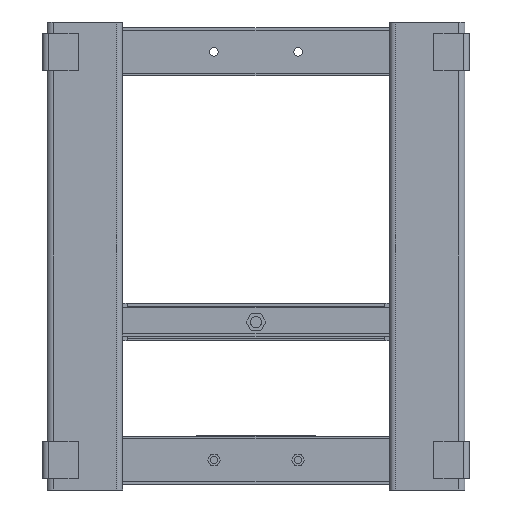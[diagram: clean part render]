
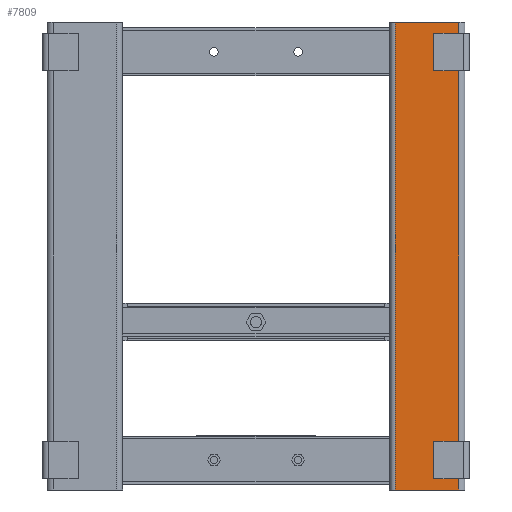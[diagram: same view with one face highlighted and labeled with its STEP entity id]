
A CAD part, front view. The second image highlights one B-rep face of the part: STEP entity #7809.
In plain terms, the highlighted planar face has unit normal (0, -1, 0).
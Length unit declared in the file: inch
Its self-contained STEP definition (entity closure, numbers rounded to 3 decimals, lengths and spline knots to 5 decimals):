
#717=FACE_OUTER_BOUND('',#1163,.T.);
#1163=EDGE_LOOP('',(#6401,#6402,#6403,#6404,#6405,#6406,#6407,#6408,#6409,
#6410,#6411,#6412));
#1909=LINE('',#12211,#2755);
#1915=LINE('',#12226,#2761);
#1924=LINE('',#12245,#2770);
#1945=LINE('',#12295,#2791);
#1950=LINE('',#12309,#2796);
#1960=LINE('',#12329,#2806);
#1964=LINE('',#12338,#2810);
#1965=LINE('',#12340,#2811);
#1966=LINE('',#12342,#2812);
#1967=LINE('',#12344,#2813);
#1968=LINE('',#12345,#2814);
#1969=LINE('',#12346,#2815);
#2755=VECTOR('',#10017,0.3937);
#2761=VECTOR('',#10033,0.3937);
#2770=VECTOR('',#10054,0.3937);
#2791=VECTOR('',#10097,0.3937);
#2796=VECTOR('',#10110,0.3937);
#2806=VECTOR('',#10132,0.3937);
#2810=VECTOR('',#10140,0.3937);
#2811=VECTOR('',#10141,0.3937);
#2812=VECTOR('',#10142,0.3937);
#2813=VECTOR('',#10143,0.3937);
#2814=VECTOR('',#10144,0.3937);
#2815=VECTOR('',#10145,0.3937);
#3484=VERTEX_POINT('',#12208);
#3485=VERTEX_POINT('',#12210);
#3488=VERTEX_POINT('',#12221);
#3489=VERTEX_POINT('',#12225);
#3507=VERTEX_POINT('',#12284);
#3508=VERTEX_POINT('',#12285);
#3511=VERTEX_POINT('',#12294);
#3516=VERTEX_POINT('',#12308);
#3523=VERTEX_POINT('',#12337);
#3524=VERTEX_POINT('',#12339);
#3525=VERTEX_POINT('',#12341);
#3526=VERTEX_POINT('',#12343);
#4455=EDGE_CURVE('',#3485,#3484,#1909,.T.);
#4463=EDGE_CURVE('',#3484,#3489,#1915,.T.);
#4473=EDGE_CURVE('',#3489,#3488,#1924,.T.);
#4498=EDGE_CURVE('',#3511,#3508,#1945,.T.);
#4505=EDGE_CURVE('',#3516,#3511,#1950,.T.);
#4516=EDGE_CURVE('',#3507,#3516,#1960,.T.);
#4520=EDGE_CURVE('',#3488,#3523,#1964,.T.);
#4521=EDGE_CURVE('',#3524,#3523,#1965,.T.);
#4522=EDGE_CURVE('',#3525,#3524,#1966,.T.);
#4523=EDGE_CURVE('',#3525,#3526,#1967,.T.);
#4524=EDGE_CURVE('',#3526,#3507,#1968,.T.);
#4525=EDGE_CURVE('',#3508,#3485,#1969,.T.);
#6401=ORIENTED_EDGE('',*,*,#4473,.T.);
#6402=ORIENTED_EDGE('',*,*,#4520,.T.);
#6403=ORIENTED_EDGE('',*,*,#4521,.F.);
#6404=ORIENTED_EDGE('',*,*,#4522,.F.);
#6405=ORIENTED_EDGE('',*,*,#4523,.T.);
#6406=ORIENTED_EDGE('',*,*,#4524,.T.);
#6407=ORIENTED_EDGE('',*,*,#4516,.T.);
#6408=ORIENTED_EDGE('',*,*,#4505,.T.);
#6409=ORIENTED_EDGE('',*,*,#4498,.T.);
#6410=ORIENTED_EDGE('',*,*,#4525,.T.);
#6411=ORIENTED_EDGE('',*,*,#4455,.T.);
#6412=ORIENTED_EDGE('',*,*,#4463,.T.);
#7094=PLANE('',#8363);
#7809=ADVANCED_FACE('',(#717),#7094,.T.);
#8363=AXIS2_PLACEMENT_3D('',#12336,#10138,#10139);
#10017=DIRECTION('',(-1.,0.,0.));
#10033=DIRECTION('',(0.,0.,1.));
#10054=DIRECTION('',(1.,0.,0.));
#10097=DIRECTION('',(1.,0.,0.));
#10110=DIRECTION('',(0.,0.,1.));
#10132=DIRECTION('',(-1.,0.,0.));
#10138=DIRECTION('center_axis',(0.,-1.,0.));
#10139=DIRECTION('ref_axis',(1.,0.,0.));
#10140=DIRECTION('',(0.,0.,1.));
#10141=DIRECTION('',(1.,0.,0.));
#10142=DIRECTION('',(0.,0.,1.));
#10143=DIRECTION('',(1.,0.,0.));
#10144=DIRECTION('',(0.,0.,1.));
#10145=DIRECTION('',(0.,0.,1.));
#12208=CARTESIAN_POINT('',(14.815,0.,34.945));
#12210=CARTESIAN_POINT('',(16.9215,0.,34.945));
#12211=CARTESIAN_POINT('',(13.9675,0.,34.945));
#12221=CARTESIAN_POINT('',(16.9215,0.,38.095));
#12225=CARTESIAN_POINT('',(14.815,0.,38.095));
#12226=CARTESIAN_POINT('',(14.815,0.,18.26));
#12245=CARTESIAN_POINT('',(13.9675,0.,38.095));
#12284=CARTESIAN_POINT('',(16.9215,0.,0.925));
#12285=CARTESIAN_POINT('',(16.9215,0.,4.075));
#12294=CARTESIAN_POINT('',(14.815,0.,4.075));
#12295=CARTESIAN_POINT('',(13.9675,0.,4.075));
#12308=CARTESIAN_POINT('',(14.815,0.,0.925));
#12309=CARTESIAN_POINT('',(14.815,0.,1.25));
#12329=CARTESIAN_POINT('',(13.9675,0.,0.925));
#12336=CARTESIAN_POINT('Origin',(11.62,0.,0.));
#12337=CARTESIAN_POINT('',(16.9215,0.,39.02));
#12338=CARTESIAN_POINT('',(16.9215,0.,0.));
#12339=CARTESIAN_POINT('',(11.62,0.,39.02));
#12340=CARTESIAN_POINT('',(11.62,0.,39.02));
#12341=CARTESIAN_POINT('',(11.62,0.,0.));
#12342=CARTESIAN_POINT('',(11.62,0.,0.));
#12343=CARTESIAN_POINT('',(16.9215,0.,0.));
#12344=CARTESIAN_POINT('',(11.62,0.,0.));
#12345=CARTESIAN_POINT('',(16.9215,0.,0.));
#12346=CARTESIAN_POINT('',(16.9215,0.,0.));
